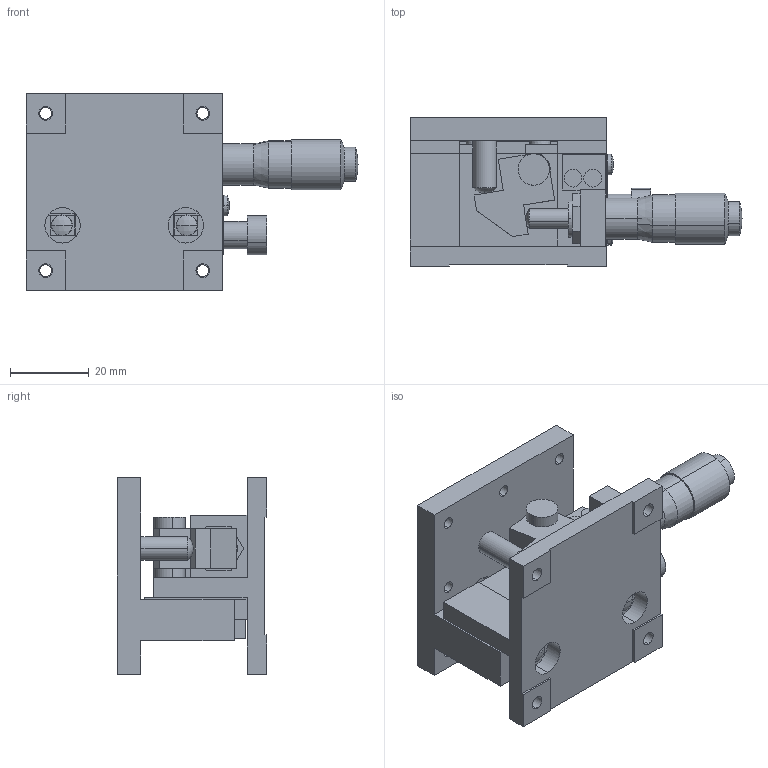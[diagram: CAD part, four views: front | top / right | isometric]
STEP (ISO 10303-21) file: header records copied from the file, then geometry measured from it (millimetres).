
FILE_DESCRIPTION (( 'STEP AP214' ), '1' );
FILE_NAME ('LV‐5041‐8.STEP', '2007-09-14T06:19:13', ( '' ), ( '' ), 'SwSTEP 2.0', 'SolidWorks 2006303', '' );
FILE_SCHEMA (( 'AUTOMOTIVE_DESIGN' ));
Length unit declared in the file: millimetre
Products named in the file (5): LV50410080乚4_棉太倌; LV‐5041‐8; LV50410080乚2_棉太倌; LV50410080乚3_棉太倌; LV50410080乚1_棉太倌
Assembly tree (4 placements, depth 2):
  LV‐5041‐8
    LV50410080乚4_棉太倌
    LV50410080乚2_棉太倌
    LV50410080乚3_棉太倌
    LV50410080乚1_棉太倌
Bounding box: 84.5 x 38 x 50 mm (x, y, z)
Volume: 51437.7 mm3; surface area: 26433.6 mm2
Topology: 4 solids, 5 shells, 245 faces, 622 edges, 397 vertices
Faces by surface type: plane 130, cylinder 81, sphere 16, cone 16, torus 2
Entity records: 7592 total; most frequent: DIRECTION 1361, CARTESIAN_POINT 1269, ORIENTED_EDGE 1240, EDGE_CURVE 620, AXIS2_PLACEMENT_3D 489, VERTEX_POINT 397, VECTOR 383, LINE 383
